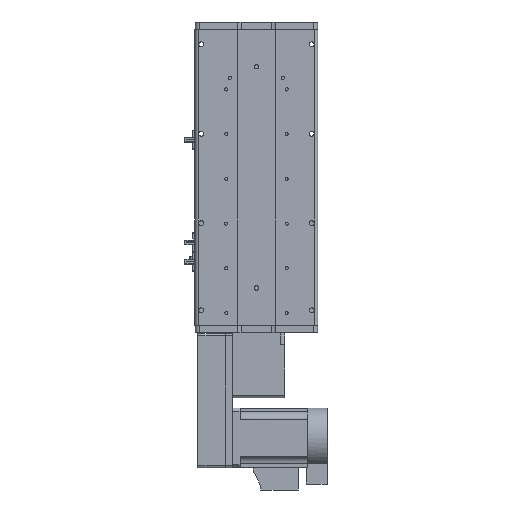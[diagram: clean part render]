
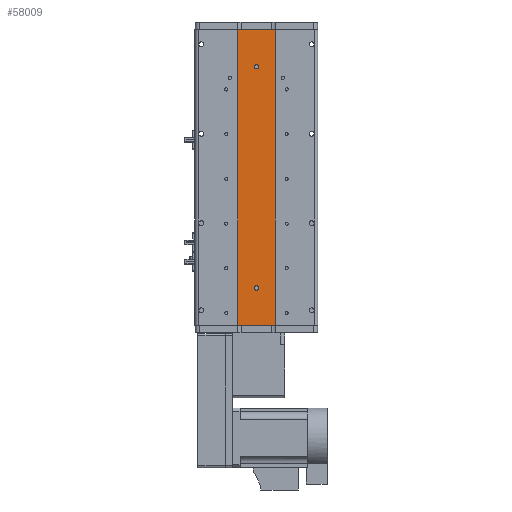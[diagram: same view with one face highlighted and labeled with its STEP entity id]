
A CAD part, front view. The second image highlights one B-rep face of the part: STEP entity #58009.
In plain terms, the highlighted planar face has unit normal (0, -1, 0).
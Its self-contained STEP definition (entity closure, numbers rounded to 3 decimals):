
#215 = VECTOR ( 'NONE', #48226, 1000. ) ;
#1606 = CARTESIAN_POINT ( 'NONE',  ( 0., 1., -148.5 ) ) ;
#1668 = DIRECTION ( 'NONE',  ( 0., 0., 1. ) ) ;
#2177 = ORIENTED_EDGE ( 'NONE', *, *, #50878, .T. ) ;
#4607 = VECTOR ( 'NONE', #46916, 1000. ) ;
#4728 = AXIS2_PLACEMENT_3D ( 'NONE', #44424, #58335, #30652 ) ;
#5424 = CARTESIAN_POINT ( 'NONE',  ( 25., 1., 198.5 ) ) ;
#5516 = DIRECTION ( 'NONE',  ( 0., 1., 0. ) ) ;
#6087 = EDGE_CURVE ( 'NONE', #12954, #58570, #8136, .T. ) ;
#6291 = DIRECTION ( 'NONE',  ( 0., 0., 1. ) ) ;
#8136 = LINE ( 'NONE', #58834, #28402 ) ;
#8253 = ORIENTED_EDGE ( 'NONE', *, *, #25864, .F. ) ;
#9395 = AXIS2_PLACEMENT_3D ( 'NONE', #57135, #29435, #1668 ) ;
#9647 = FACE_BOUND ( 'NONE', #26813, .T. ) ;
#10115 = CARTESIAN_POINT ( 'NONE',  ( -25., 1., -198.5 ) ) ;
#10741 = CARTESIAN_POINT ( 'NONE',  ( 0., 1., -151.5 ) ) ;
#10958 = DIRECTION ( 'NONE',  ( 0., 0., -1. ) ) ;
#12369 = EDGE_CURVE ( 'NONE', #20380, #36239, #20049, .T. ) ;
#12954 = VERTEX_POINT ( 'NONE', #10115 ) ;
#13857 = CARTESIAN_POINT ( 'NONE',  ( 25., 1., 198.5 ) ) ;
#14033 = EDGE_CURVE ( 'NONE', #33599, #58570, #55308, .T. ) ;
#16380 = EDGE_LOOP ( 'NONE', ( #23054, #50569, #8253, #19338 ) ) ;
#16841 = VERTEX_POINT ( 'NONE', #57379 ) ;
#17754 = CIRCLE ( 'NONE', #29092, 3. ) ;
#19338 = ORIENTED_EDGE ( 'NONE', *, *, #34290, .T. ) ;
#20049 = CIRCLE ( 'NONE', #33728, 3. ) ;
#20202 = DIRECTION ( 'NONE',  ( 0., 1., 0. ) ) ;
#20380 = VERTEX_POINT ( 'NONE', #47641 ) ;
#21060 = EDGE_CURVE ( 'NONE', #28234, #16841, #55701, .T. ) ;
#21236 = CARTESIAN_POINT ( 'NONE',  ( 25., 1., -198.5 ) ) ;
#23054 = ORIENTED_EDGE ( 'NONE', *, *, #6087, .T. ) ;
#23377 = FACE_BOUND ( 'NONE', #29204, .T. ) ;
#25864 = EDGE_CURVE ( 'NONE', #53365, #33599, #37163, .T. ) ;
#26813 = EDGE_LOOP ( 'NONE', ( #58405, #28102 ) ) ;
#28102 = ORIENTED_EDGE ( 'NONE', *, *, #12369, .T. ) ;
#28234 = VERTEX_POINT ( 'NONE', #10741 ) ;
#28402 = VECTOR ( 'NONE', #45131, 1000. ) ;
#29092 = AXIS2_PLACEMENT_3D ( 'NONE', #47953, #20202, #52593 ) ;
#29204 = EDGE_LOOP ( 'NONE', ( #56586, #2177 ) ) ;
#29435 = DIRECTION ( 'NONE',  ( 0., 1., 0. ) ) ;
#30652 = DIRECTION ( 'NONE',  ( 0., 0., 1. ) ) ;
#30713 = VECTOR ( 'NONE', #10958, 1000. ) ;
#33275 = CARTESIAN_POINT ( 'NONE',  ( 0., 1., 148.5 ) ) ;
#33599 = VERTEX_POINT ( 'NONE', #13857 ) ;
#33728 = AXIS2_PLACEMENT_3D ( 'NONE', #33275, #5516, #37916 ) ;
#34030 = DIRECTION ( 'NONE',  ( 0., 1., 0. ) ) ;
#34290 = EDGE_CURVE ( 'NONE', #53365, #12954, #55309, .T. ) ;
#34657 = CARTESIAN_POINT ( 'NONE',  ( -25., 1., 198.5 ) ) ;
#35336 = AXIS2_PLACEMENT_3D ( 'NONE', #1606, #34030, #6291 ) ;
#36239 = VERTEX_POINT ( 'NONE', #43953 ) ;
#37163 = LINE ( 'NONE', #57327, #215 ) ;
#37415 = EDGE_CURVE ( 'NONE', #36239, #20380, #43691, .T. ) ;
#37916 = DIRECTION ( 'NONE',  ( 0., 0., 1. ) ) ;
#38690 = CARTESIAN_POINT ( 'NONE',  ( -25., 1., 198.5 ) ) ;
#39753 = PLANE ( 'NONE',  #4728 ) ;
#43691 = CIRCLE ( 'NONE', #9395, 3. ) ;
#43953 = CARTESIAN_POINT ( 'NONE',  ( 0., 1., 145.5 ) ) ;
#44424 = CARTESIAN_POINT ( 'NONE',  ( 25., 1., 198.5 ) ) ;
#45131 = DIRECTION ( 'NONE',  ( 1., 0., 0. ) ) ;
#46916 = DIRECTION ( 'NONE',  ( 0., 0., -1. ) ) ;
#47641 = CARTESIAN_POINT ( 'NONE',  ( 0., 1., 151.5 ) ) ;
#47953 = CARTESIAN_POINT ( 'NONE',  ( 0., 1., -148.5 ) ) ;
#48226 = DIRECTION ( 'NONE',  ( 1., 0., 0. ) ) ;
#50569 = ORIENTED_EDGE ( 'NONE', *, *, #14033, .F. ) ;
#50878 = EDGE_CURVE ( 'NONE', #16841, #28234, #17754, .T. ) ;
#52593 = DIRECTION ( 'NONE',  ( 0., 0., 1. ) ) ;
#53365 = VERTEX_POINT ( 'NONE', #34657 ) ;
#55308 = LINE ( 'NONE', #5424, #4607 ) ;
#55309 = LINE ( 'NONE', #38690, #30713 ) ;
#55701 = CIRCLE ( 'NONE', #35336, 3. ) ;
#56586 = ORIENTED_EDGE ( 'NONE', *, *, #21060, .T. ) ;
#57135 = CARTESIAN_POINT ( 'NONE',  ( 0., 1., 148.5 ) ) ;
#57327 = CARTESIAN_POINT ( 'NONE',  ( 25., 1., 198.5 ) ) ;
#57379 = CARTESIAN_POINT ( 'NONE',  ( 0., 1., -145.5 ) ) ;
#58009 = ADVANCED_FACE ( 'NONE', ( #23377, #9647, #58857 ), #39753, .F. ) ;
#58335 = DIRECTION ( 'NONE',  ( 0., 1., 0. ) ) ;
#58405 = ORIENTED_EDGE ( 'NONE', *, *, #37415, .T. ) ;
#58570 = VERTEX_POINT ( 'NONE', #21236 ) ;
#58834 = CARTESIAN_POINT ( 'NONE',  ( 25., 1., -198.5 ) ) ;
#58857 = FACE_OUTER_BOUND ( 'NONE', #16380, .T. ) ;
